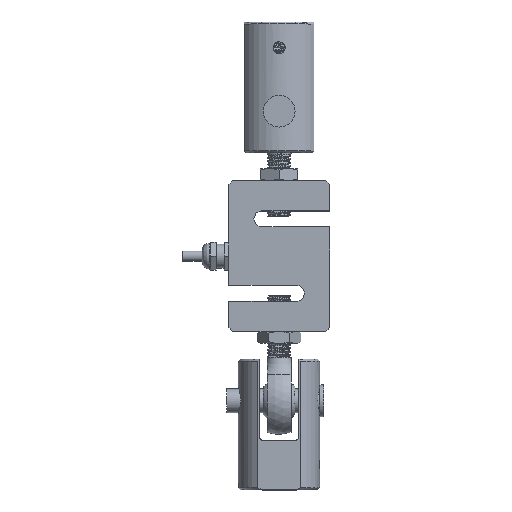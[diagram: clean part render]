
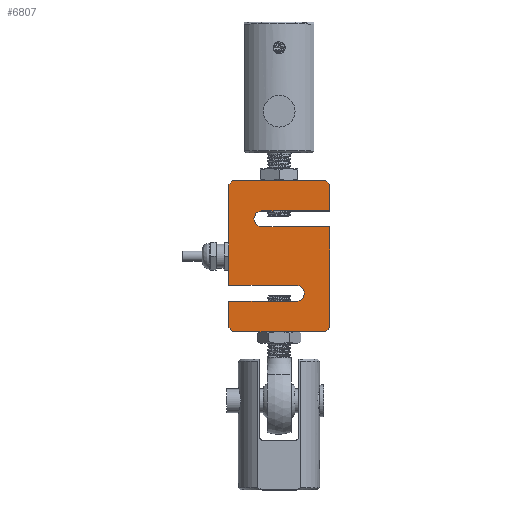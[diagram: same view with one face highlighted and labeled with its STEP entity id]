
A CAD part, top view. The second image highlights one B-rep face of the part: STEP entity #6807.
In plain terms, the highlighted planar face has unit normal (0, 0, 1) as drawn and (0, 1, 0) by its records, which use the part's own axes.
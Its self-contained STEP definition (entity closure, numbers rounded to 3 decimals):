
#825=PLANE('',#7320);
#969=FACE_OUTER_BOUND('',#1376,.T.);
#1376=EDGE_LOOP('',(#4797,#4798,#4799,#4800,#4801,#4802,#4803,#4804,#4805,
#4806,#4807,#4808,#4809,#4810,#4811,#4812));
#1791=LINE('',#12861,#2119);
#1796=LINE('',#14425,#2124);
#1797=LINE('',#14429,#2125);
#1811=LINE('',#14460,#2139);
#1814=LINE('',#14465,#2142);
#1815=LINE('',#14468,#2143);
#1817=LINE('',#14472,#2145);
#1820=LINE('',#14477,#2148);
#1823=LINE('',#14483,#2151);
#1825=LINE('',#14487,#2153);
#1828=LINE('',#14494,#2156);
#1829=LINE('',#14497,#2157);
#1831=LINE('',#14501,#2159);
#1834=LINE('',#14508,#2162);
#2119=VECTOR('',#8015,10.);
#2124=VECTOR('',#8030,10.);
#2125=VECTOR('',#8035,10.);
#2139=VECTOR('',#8057,10.);
#2142=VECTOR('',#8062,10.);
#2143=VECTOR('',#8065,10.);
#2145=VECTOR('',#8069,10.);
#2148=VECTOR('',#8074,10.);
#2151=VECTOR('',#8081,10.);
#2153=VECTOR('',#8085,10.);
#2156=VECTOR('',#8094,10.);
#2157=VECTOR('',#8097,10.);
#2159=VECTOR('',#8101,10.);
#2162=VECTOR('',#8110,10.);
#2394=CIRCLE('',#7313,4.);
#2395=CIRCLE('',#7318,4.);
#2658=VERTEX_POINT('',#12855);
#2660=VERTEX_POINT('',#12859);
#2666=VERTEX_POINT('',#14419);
#2668=VERTEX_POINT('',#14423);
#2669=VERTEX_POINT('',#14428);
#2682=VERTEX_POINT('',#14459);
#2683=VERTEX_POINT('',#14463);
#2684=VERTEX_POINT('',#14467);
#2685=VERTEX_POINT('',#14471);
#2686=VERTEX_POINT('',#14475);
#2687=VERTEX_POINT('',#14482);
#2688=VERTEX_POINT('',#14486);
#2689=VERTEX_POINT('',#14490);
#2690=VERTEX_POINT('',#14496);
#2691=VERTEX_POINT('',#14500);
#2692=VERTEX_POINT('',#14504);
#3431=EDGE_CURVE('',#2658,#2660,#1791,.T.);
#3448=EDGE_CURVE('',#2666,#2668,#1796,.T.);
#3449=EDGE_CURVE('',#2666,#2669,#1797,.T.);
#3465=EDGE_CURVE('',#2682,#2668,#1811,.T.);
#3468=EDGE_CURVE('',#2682,#2683,#1814,.T.);
#3469=EDGE_CURVE('',#2658,#2684,#1815,.T.);
#3471=EDGE_CURVE('',#2685,#2660,#1817,.T.);
#3474=EDGE_CURVE('',#2685,#2686,#1820,.T.);
#3477=EDGE_CURVE('',#2687,#2669,#1823,.T.);
#3479=EDGE_CURVE('',#2688,#2687,#1825,.T.);
#3481=EDGE_CURVE('',#2689,#2688,#2394,.T.);
#3483=EDGE_CURVE('',#2686,#2689,#1828,.T.);
#3484=EDGE_CURVE('',#2690,#2684,#1829,.T.);
#3486=EDGE_CURVE('',#2691,#2690,#1831,.T.);
#3488=EDGE_CURVE('',#2692,#2691,#2395,.T.);
#3490=EDGE_CURVE('',#2683,#2692,#1834,.T.);
#4797=ORIENTED_EDGE('',*,*,#3449,.F.);
#4798=ORIENTED_EDGE('',*,*,#3448,.T.);
#4799=ORIENTED_EDGE('',*,*,#3465,.F.);
#4800=ORIENTED_EDGE('',*,*,#3468,.T.);
#4801=ORIENTED_EDGE('',*,*,#3490,.T.);
#4802=ORIENTED_EDGE('',*,*,#3488,.T.);
#4803=ORIENTED_EDGE('',*,*,#3486,.T.);
#4804=ORIENTED_EDGE('',*,*,#3484,.T.);
#4805=ORIENTED_EDGE('',*,*,#3469,.F.);
#4806=ORIENTED_EDGE('',*,*,#3431,.T.);
#4807=ORIENTED_EDGE('',*,*,#3471,.F.);
#4808=ORIENTED_EDGE('',*,*,#3474,.T.);
#4809=ORIENTED_EDGE('',*,*,#3483,.T.);
#4810=ORIENTED_EDGE('',*,*,#3481,.T.);
#4811=ORIENTED_EDGE('',*,*,#3479,.T.);
#4812=ORIENTED_EDGE('',*,*,#3477,.T.);
#6807=ADVANCED_FACE('',(#969),#825,.T.);
#7313=AXIS2_PLACEMENT_3D('',#14491,#8089,#8090);
#7318=AXIS2_PLACEMENT_3D('',#14505,#8105,#8106);
#7320=AXIS2_PLACEMENT_3D('',#14509,#8111,#8112);
#8015=DIRECTION('',(-1.,0.,0.));
#8030=DIRECTION('',(1.,0.,0.));
#8035=DIRECTION('',(-0.707,0.,-0.707));
#8057=DIRECTION('',(-0.707,0.,0.707));
#8062=DIRECTION('',(0.,0.,-1.));
#8065=DIRECTION('',(0.707,0.,0.707));
#8069=DIRECTION('',(0.707,0.,-0.707));
#8074=DIRECTION('',(0.,0.,1.));
#8081=DIRECTION('',(0.,0.,1.));
#8085=DIRECTION('',(-1.,0.,0.));
#8089=DIRECTION('center_axis',(0.,-1.,0.));
#8090=DIRECTION('ref_axis',(0.,0.,1.));
#8094=DIRECTION('',(1.,0.,0.));
#8097=DIRECTION('',(0.,0.,-1.));
#8101=DIRECTION('',(1.,0.,0.));
#8105=DIRECTION('center_axis',(0.,-1.,0.));
#8106=DIRECTION('ref_axis',(0.,0.,-1.));
#8110=DIRECTION('',(-1.,0.,0.));
#8111=DIRECTION('center_axis',(0.,1.,0.));
#8112=DIRECTION('ref_axis',(1.,0.,0.));
#12855=CARTESIAN_POINT('',(23.4,14.1,-38.1));
#12859=CARTESIAN_POINT('',(-23.4,14.1,-38.1));
#12861=CARTESIAN_POINT('',(-25.4,14.1,-38.1));
#14419=CARTESIAN_POINT('',(-23.4,14.1,38.1));
#14423=CARTESIAN_POINT('',(23.4,14.1,38.1));
#14425=CARTESIAN_POINT('',(25.4,14.1,38.1));
#14428=CARTESIAN_POINT('',(-25.4,14.1,36.1));
#14429=CARTESIAN_POINT('',(-27.575,14.1,33.925));
#14459=CARTESIAN_POINT('',(25.4,14.1,36.1));
#14460=CARTESIAN_POINT('',(27.575,14.1,33.925));
#14463=CARTESIAN_POINT('',(25.4,14.1,-14.76));
#14465=CARTESIAN_POINT('',(25.4,14.1,-38.1));
#14467=CARTESIAN_POINT('',(25.4,14.1,-36.1));
#14468=CARTESIAN_POINT('',(27.575,14.1,-33.925));
#14471=CARTESIAN_POINT('',(-25.4,14.1,-36.1));
#14472=CARTESIAN_POINT('',(-27.575,14.1,-33.925));
#14475=CARTESIAN_POINT('',(-25.4,14.1,14.76));
#14477=CARTESIAN_POINT('',(-25.4,14.1,38.1));
#14482=CARTESIAN_POINT('',(-25.4,14.1,22.76));
#14483=CARTESIAN_POINT('',(-25.4,14.1,38.1));
#14486=CARTESIAN_POINT('',(8.7,14.1,22.76));
#14487=CARTESIAN_POINT('',(-25.4,14.1,22.76));
#14490=CARTESIAN_POINT('',(8.7,14.1,14.76));
#14491=CARTESIAN_POINT('Origin',(8.7,14.1,18.76));
#14494=CARTESIAN_POINT('',(-25.4,14.1,14.76));
#14496=CARTESIAN_POINT('',(25.4,14.1,-22.76));
#14497=CARTESIAN_POINT('',(25.4,14.1,-38.1));
#14500=CARTESIAN_POINT('',(-8.7,14.1,-22.76));
#14501=CARTESIAN_POINT('',(25.4,14.1,-22.76));
#14504=CARTESIAN_POINT('',(-8.7,14.1,-14.76));
#14505=CARTESIAN_POINT('Origin',(-8.7,14.1,-18.76));
#14508=CARTESIAN_POINT('',(25.4,14.1,-14.76));
#14509=CARTESIAN_POINT('Origin',(0.,14.1,0.));
